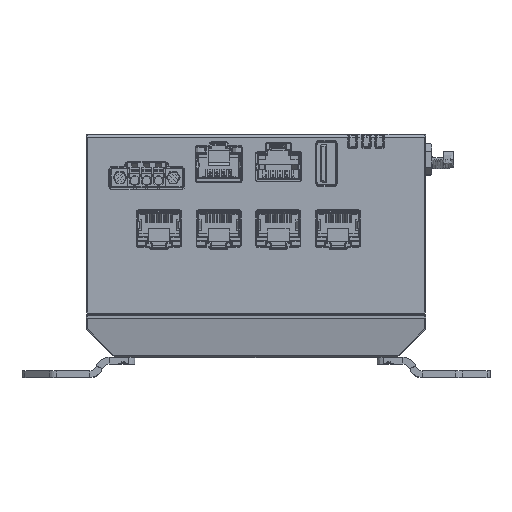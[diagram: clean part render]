
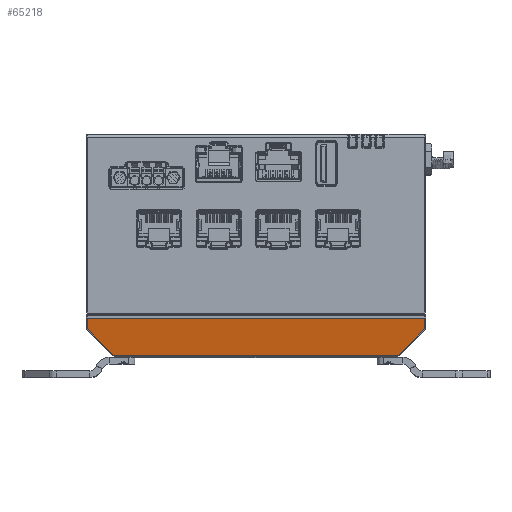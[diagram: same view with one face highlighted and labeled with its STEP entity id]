
A CAD part, top view. The second image highlights one B-rep face of the part: STEP entity #65218.
In plain terms, the highlighted planar face has unit normal (0, -0.171, 0.985).
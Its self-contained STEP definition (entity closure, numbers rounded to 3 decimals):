
#46137=DIRECTION('',(0.,0.985,0.171));
#46138=VECTOR('',#46137,3.199);
#46139=CARTESIAN_POINT('',(49.8,-4.451,
29.452));
#46140=LINE('',#46139,#46138);
#46141=DIRECTION('',(0.702,0.702,0.122));
#46142=VECTOR('',#46141,11.069);
#46143=CARTESIAN_POINT('',(42.031,-12.22,
28.101));
#46144=LINE('',#46143,#46142);
#46145=DIRECTION('',(0.702,-0.702,-0.122));
#46146=VECTOR('',#46145,11.069);
#46147=CARTESIAN_POINT('',(-49.8,-4.451,
29.452));
#46148=LINE('',#46147,#46146);
#46149=DIRECTION('',(-1.,0.,0.));
#46150=VECTOR('',#46149,99.6);
#46151=CARTESIAN_POINT('',(49.8,-1.3,
30.));
#46152=LINE('',#46151,#46150);
#46311=DIRECTION('',(1.,0.,0.));
#46312=VECTOR('',#46311,84.063);
#46313=CARTESIAN_POINT('',(-42.031,-12.22,
28.101));
#46314=LINE('',#46313,#46312);
#46458=DIRECTION('',(0.,-0.985,-0.171));
#46459=VECTOR('',#46458,3.199);
#46460=CARTESIAN_POINT('',(-49.8,-1.3,
30.));
#46461=LINE('',#46460,#46459);
#52420=CARTESIAN_POINT('',(49.8,-1.3,
30.));
#52422=VERTEX_POINT('',#52420);
#52424=CARTESIAN_POINT('',(-49.8,-1.3,
30.));
#52425=VERTEX_POINT('',#52424);
#52438=CARTESIAN_POINT('',(49.8,-4.451,
29.452));
#52439=VERTEX_POINT('',#52438);
#52440=CARTESIAN_POINT('',(42.031,-12.22,
28.101));
#52441=VERTEX_POINT('',#52440);
#52442=CARTESIAN_POINT('',(-42.031,-12.22,
28.101));
#52443=VERTEX_POINT('',#52442);
#52444=CARTESIAN_POINT('',(-49.8,-4.451,
29.452));
#52445=VERTEX_POINT('',#52444);
#65201=CARTESIAN_POINT('',(0.,-6.76,29.05));
#65202=DIRECTION('',(0.,-0.171,0.985));
#65203=DIRECTION('',(0.,-0.985,-0.171));
#65204=AXIS2_PLACEMENT_3D('',#65201,#65202,#65203);
#65205=PLANE('',#65204);
#65206=ORIENTED_EDGE('',*,*,#65185,.F.);
#65208=ORIENTED_EDGE('',*,*,#65207,.F.);
#65210=ORIENTED_EDGE('',*,*,#65209,.F.);
#65212=ORIENTED_EDGE('',*,*,#65211,.F.);
#65214=ORIENTED_EDGE('',*,*,#65213,.F.);
#65215=ORIENTED_EDGE('',*,*,#65119,.F.);
#65216=EDGE_LOOP('',(#65206,#65208,#65210,#65212,#65214,#65215));
#65217=FACE_OUTER_BOUND('',#65216,.F.);
#65119=EDGE_CURVE('',#52422,#52425,#46152,.T.);
#65185=EDGE_CURVE('',#52439,#52422,#46140,.T.);
#65207=EDGE_CURVE('',#52441,#52439,#46144,.T.);
#65209=EDGE_CURVE('',#52443,#52441,#46314,.T.);
#65211=EDGE_CURVE('',#52445,#52443,#46148,.T.);
#65213=EDGE_CURVE('',#52425,#52445,#46461,.T.);
#65218=ADVANCED_FACE('',(#65217),#65205,.T.);
